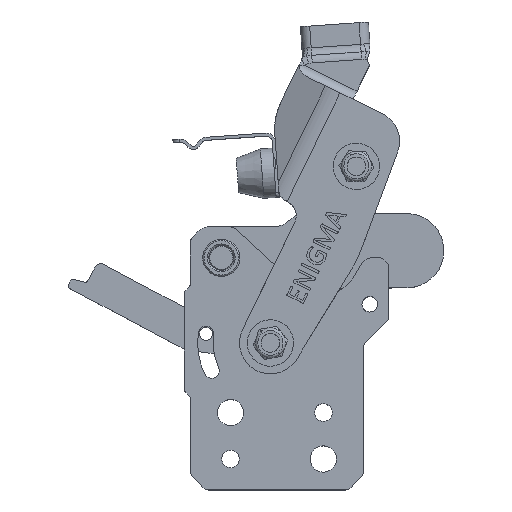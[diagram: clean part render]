
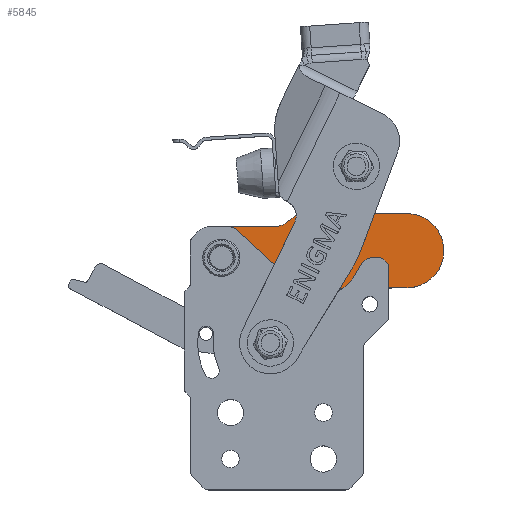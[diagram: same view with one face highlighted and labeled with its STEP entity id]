
A CAD part, top view. The second image highlights one B-rep face of the part: STEP entity #5845.
In plain terms, the highlighted planar face has unit normal (0, 0, 1) as drawn and (0, 0, -1) by its records, which use the part's own axes.
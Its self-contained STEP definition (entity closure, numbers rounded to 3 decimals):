
#198 = ORIENTED_EDGE ( 'NONE', *, *, #8915, .F. ) ;
#430 = DIRECTION ( 'NONE',  ( 1., 0., 0. ) ) ;
#1391 = DIRECTION ( 'NONE',  ( 1., 0., 0. ) ) ;
#2533 = CIRCLE ( 'NONE', #31289, 3.975 ) ;
#2542 = LINE ( 'NONE', #5145, #10962 ) ;
#2819 = CIRCLE ( 'NONE', #18826, 3.975 ) ;
#2950 = EDGE_CURVE ( 'NONE', #15619, #13937, #23846, .T. ) ;
#3059 = VERTEX_POINT ( 'NONE', #16727 ) ;
#3163 = DIRECTION ( 'NONE',  ( 1., 0., 0. ) ) ;
#3584 = CIRCLE ( 'NONE', #21269, 3.975 ) ;
#4031 = DIRECTION ( 'NONE',  ( -1., 0., 0. ) ) ;
#4093 = VERTEX_POINT ( 'NONE', #8289 ) ;
#4230 = DIRECTION ( 'NONE',  ( 1., 0., 0. ) ) ;
#4398 = DIRECTION ( 'NONE',  ( 0., 0., -1. ) ) ;
#4726 = ORIENTED_EDGE ( 'NONE', *, *, #16101, .T. ) ;
#4818 = CIRCLE ( 'NONE', #24649, 6.5 ) ;
#4831 = VECTOR ( 'NONE', #4031, 1000. ) ;
#5143 = CIRCLE ( 'NONE', #26124, 3.975 ) ;
#5145 = CARTESIAN_POINT ( 'NONE',  ( -115., -10., -5. ) ) ;
#5316 = CARTESIAN_POINT ( 'NONE',  ( -60., 2., -5. ) ) ;
#5574 = CIRCLE ( 'NONE', #8901, 12. ) ;
#5845 = ADVANCED_FACE ( 'NONE', ( #22901, #7005, #17389 ), #17220, .F. ) ;
#6074 = CARTESIAN_POINT ( 'NONE',  ( -17.308, 16.5, -5. ) ) ;
#6308 = AXIS2_PLACEMENT_3D ( 'NONE', #9259, #33630, #25496 ) ;
#6929 = ORIENTED_EDGE ( 'NONE', *, *, #17318, .F. ) ;
#7005 = FACE_BOUND ( 'NONE', #12284, .T. ) ;
#7077 = DIRECTION ( 'NONE',  ( 0., 0., 1. ) ) ;
#7329 = CARTESIAN_POINT ( 'NONE',  ( -21.904, 11.904, -5. ) ) ;
#7616 = DIRECTION ( 'NONE',  ( -1., 0., 0. ) ) ;
#8019 = EDGE_CURVE ( 'NONE', #22968, #33307, #4818, .T. ) ;
#8277 = EDGE_CURVE ( 'NONE', #4093, #29920, #33746, .T. ) ;
#8289 = CARTESIAN_POINT ( 'NONE',  ( -26.692, 14., -5. ) ) ;
#8323 = ORIENTED_EDGE ( 'NONE', *, *, #8019, .T. ) ;
#8679 = DIRECTION ( 'NONE',  ( 1., 0., 0. ) ) ;
#8901 = AXIS2_PLACEMENT_3D ( 'NONE', #19784, #4398, #9592 ) ;
#8915 = EDGE_CURVE ( 'NONE', #16077, #3059, #18090, .T. ) ;
#8929 = AXIS2_PLACEMENT_3D ( 'NONE', #5316, #15716, #430 ) ;
#9259 = CARTESIAN_POINT ( 'NONE',  ( 0., 0., -5. ) ) ;
#9592 = DIRECTION ( 'NONE',  ( 1., 0., 0. ) ) ;
#9810 = EDGE_CURVE ( 'NONE', #22968, #30753, #14825, .T. ) ;
#10370 = VECTOR ( 'NONE', #7616, 1000. ) ;
#10521 = DIRECTION ( 'NONE',  ( 1., 0., 0. ) ) ;
#10620 = DIRECTION ( 'NONE',  ( 0., 0., -1. ) ) ;
#10962 = VECTOR ( 'NONE', #15873, 1000. ) ;
#11768 = CARTESIAN_POINT ( 'NONE',  ( -17.308, 10., -5. ) ) ;
#11798 = CARTESIAN_POINT ( 'NONE',  ( 3.975, 0., -5. ) ) ;
#12214 = CARTESIAN_POINT ( 'NONE',  ( -20., 10., -5. ) ) ;
#12284 = EDGE_LOOP ( 'NONE', ( #32429, #30408 ) ) ;
#12355 = CARTESIAN_POINT ( 'NONE',  ( -60., -10., -5. ) ) ;
#12722 = CARTESIAN_POINT ( 'NONE',  ( -3.975, 0., -5. ) ) ;
#12790 = VERTEX_POINT ( 'NONE', #26033 ) ;
#12943 = EDGE_CURVE ( 'NONE', #12790, #15665, #5143, .T. ) ;
#13937 = VERTEX_POINT ( 'NONE', #24214 ) ;
#14064 = CARTESIAN_POINT ( 'NONE',  ( 0., 10., -5. ) ) ;
#14463 = VERTEX_POINT ( 'NONE', #12722 ) ;
#14825 = LINE ( 'NONE', #12214, #24725 ) ;
#14967 = DIRECTION ( 'NONE',  ( 1., 0., 0. ) ) ;
#15487 = ORIENTED_EDGE ( 'NONE', *, *, #12943, .T. ) ;
#15619 = VERTEX_POINT ( 'NONE', #12355 ) ;
#15665 = VERTEX_POINT ( 'NONE', #17544 ) ;
#15681 = ORIENTED_EDGE ( 'NONE', *, *, #33187, .T. ) ;
#15716 = DIRECTION ( 'NONE',  ( 0., 0., -1. ) ) ;
#15810 = DIRECTION ( 'NONE',  ( 0., 0., 1. ) ) ;
#15872 = AXIS2_PLACEMENT_3D ( 'NONE', #22897, #33452, #4230 ) ;
#15873 = DIRECTION ( 'NONE',  ( 1., 0., 0. ) ) ;
#16077 = VERTEX_POINT ( 'NONE', #21156 ) ;
#16089 = EDGE_CURVE ( 'NONE', #19511, #14463, #2819, .T. ) ;
#16101 = EDGE_CURVE ( 'NONE', #4093, #30753, #18852, .T. ) ;
#16623 = ORIENTED_EDGE ( 'NONE', *, *, #23778, .F. ) ;
#16727 = CARTESIAN_POINT ( 'NONE',  ( 0., 10., -5. ) ) ;
#16871 = CARTESIAN_POINT ( 'NONE',  ( -22.096, 12.096, -5. ) ) ;
#17220 = PLANE ( 'NONE',  #6308 ) ;
#17318 = EDGE_CURVE ( 'NONE', #3059, #33307, #30473, .T. ) ;
#17389 = FACE_OUTER_BOUND ( 'NONE', #27926, .T. ) ;
#17544 = CARTESIAN_POINT ( 'NONE',  ( -27.775, 0., -5. ) ) ;
#18090 = CIRCLE ( 'NONE', #15872, 10. ) ;
#18826 = AXIS2_PLACEMENT_3D ( 'NONE', #26671, #15810, #3163 ) ;
#18852 = CIRCLE ( 'NONE', #27125, 6.5 ) ;
#19511 = VERTEX_POINT ( 'NONE', #11798 ) ;
#19571 = DIRECTION ( 'NONE',  ( 0., 0., 1. ) ) ;
#19784 = CARTESIAN_POINT ( 'NONE',  ( -60., 2., -5. ) ) ;
#19785 = DIRECTION ( 'NONE',  ( 0., 0., 1. ) ) ;
#20092 = EDGE_CURVE ( 'NONE', #14463, #19511, #2533, .T. ) ;
#20177 = DIRECTION ( 'NONE',  ( -0.707, 0.707, 0. ) ) ;
#20373 = ORIENTED_EDGE ( 'NONE', *, *, #8277, .F. ) ;
#21156 = CARTESIAN_POINT ( 'NONE',  ( 0., -10., -5. ) ) ;
#21269 = AXIS2_PLACEMENT_3D ( 'NONE', #30465, #19571, #1391 ) ;
#22897 = CARTESIAN_POINT ( 'NONE',  ( 0., 0., -5. ) ) ;
#22901 = FACE_BOUND ( 'NONE', #31379, .T. ) ;
#22968 = VERTEX_POINT ( 'NONE', #7329 ) ;
#23317 = CARTESIAN_POINT ( 'NONE',  ( 0., 0., -5. ) ) ;
#23571 = DIRECTION ( 'NONE',  ( 1., 0., 0. ) ) ;
#23778 = EDGE_CURVE ( 'NONE', #15619, #16077, #2542, .T. ) ;
#23846 = CIRCLE ( 'NONE', #8929, 12. ) ;
#23907 = CARTESIAN_POINT ( 'NONE',  ( -26.692, 7.5, -5. ) ) ;
#24214 = CARTESIAN_POINT ( 'NONE',  ( -72., 2., -5. ) ) ;
#24649 = AXIS2_PLACEMENT_3D ( 'NONE', #6074, #32021, #8679 ) ;
#24725 = VECTOR ( 'NONE', #20177, 1000. ) ;
#25136 = CARTESIAN_POINT ( 'NONE',  ( -31.75, 0., -5. ) ) ;
#25496 = DIRECTION ( 'NONE',  ( 1., 0., 0. ) ) ;
#25793 = CARTESIAN_POINT ( 'NONE',  ( -60., 14., -5. ) ) ;
#26033 = CARTESIAN_POINT ( 'NONE',  ( -35.725, 0., -5. ) ) ;
#26124 = AXIS2_PLACEMENT_3D ( 'NONE', #25136, #19785, #14967 ) ;
#26398 = ORIENTED_EDGE ( 'NONE', *, *, #9810, .F. ) ;
#26460 = EDGE_CURVE ( 'NONE', #13937, #29920, #5574, .T. ) ;
#26671 = CARTESIAN_POINT ( 'NONE',  ( 0., 0., -5. ) ) ;
#27125 = AXIS2_PLACEMENT_3D ( 'NONE', #23907, #10620, #23571 ) ;
#27926 = EDGE_LOOP ( 'NONE', ( #16623, #28028, #29235, #20373, #4726, #26398, #8323, #6929, #198 ) ) ;
#28028 = ORIENTED_EDGE ( 'NONE', *, *, #2950, .T. ) ;
#29235 = ORIENTED_EDGE ( 'NONE', *, *, #26460, .T. ) ;
#29920 = VERTEX_POINT ( 'NONE', #25793 ) ;
#30408 = ORIENTED_EDGE ( 'NONE', *, *, #20092, .T. ) ;
#30465 = CARTESIAN_POINT ( 'NONE',  ( -31.75, 0., -5. ) ) ;
#30473 = LINE ( 'NONE', #14064, #4831 ) ;
#30753 = VERTEX_POINT ( 'NONE', #16871 ) ;
#31289 = AXIS2_PLACEMENT_3D ( 'NONE', #23317, #7077, #10521 ) ;
#31379 = EDGE_LOOP ( 'NONE', ( #15681, #15487 ) ) ;
#32021 = DIRECTION ( 'NONE',  ( 0., 0., 1. ) ) ;
#32429 = ORIENTED_EDGE ( 'NONE', *, *, #16089, .T. ) ;
#33187 = EDGE_CURVE ( 'NONE', #15665, #12790, #3584, .T. ) ;
#33307 = VERTEX_POINT ( 'NONE', #11768 ) ;
#33452 = DIRECTION ( 'NONE',  ( 0., 0., 1. ) ) ;
#33579 = CARTESIAN_POINT ( 'NONE',  ( -24., 14., -5. ) ) ;
#33630 = DIRECTION ( 'NONE',  ( 0., 0., 1. ) ) ;
#33746 = LINE ( 'NONE', #33579, #10370 ) ;
